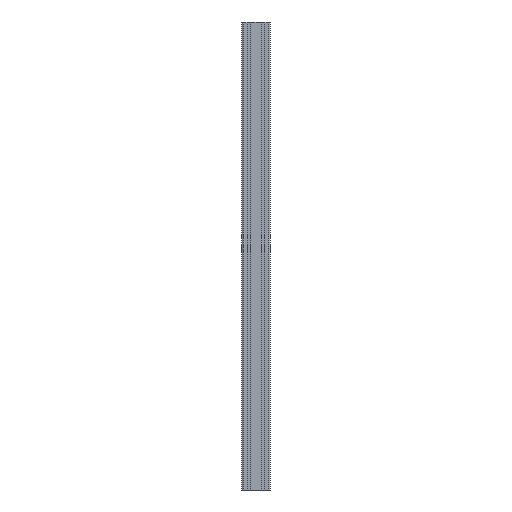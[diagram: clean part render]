
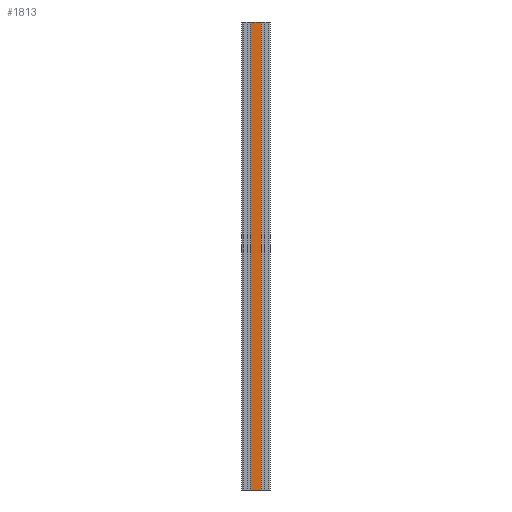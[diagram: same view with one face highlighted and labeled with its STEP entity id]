
A CAD part, left-side view. The second image highlights one B-rep face of the part: STEP entity #1813.
In plain terms, the highlighted planar face has unit normal (-1, 0, 0).
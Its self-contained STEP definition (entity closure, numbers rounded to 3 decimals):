
#138 = EDGE_LOOP ( 'NONE', ( #628, #4223, #1198, #282 ) ) ;
#207 = VECTOR ( 'NONE', #3419, 1000. ) ;
#240 = EDGE_CURVE ( 'NONE', #1594, #251, #1482, .T. ) ;
#251 = VERTEX_POINT ( 'NONE', #1555 ) ;
#282 = ORIENTED_EDGE ( 'NONE', *, *, #240, .T. ) ;
#348 = CARTESIAN_POINT ( 'NONE',  ( -30., 10.8, 500. ) ) ;
#396 = EDGE_CURVE ( 'NONE', #1594, #578, #2660, .T. ) ;
#428 = CARTESIAN_POINT ( 'NONE',  ( -30., -10.8, 500. ) ) ;
#547 = VECTOR ( 'NONE', #736, 1000. ) ;
#578 = VERTEX_POINT ( 'NONE', #428 ) ;
#628 = ORIENTED_EDGE ( 'NONE', *, *, #2948, .T. ) ;
#736 = DIRECTION ( 'NONE',  ( 0., 0., -1. ) ) ;
#787 = LINE ( 'NONE', #2101, #207 ) ;
#879 = LINE ( 'NONE', #1607, #3049 ) ;
#895 = DIRECTION ( 'NONE',  ( 0., 0., -1. ) ) ;
#1077 = AXIS2_PLACEMENT_3D ( 'NONE', #2934, #3242, #895 ) ;
#1198 = ORIENTED_EDGE ( 'NONE', *, *, #396, .F. ) ;
#1481 = VERTEX_POINT ( 'NONE', #2344 ) ;
#1482 = LINE ( 'NONE', #2379, #547 ) ;
#1555 = CARTESIAN_POINT ( 'NONE',  ( -30., 10.8, -500. ) ) ;
#1594 = VERTEX_POINT ( 'NONE', #3241 ) ;
#1607 = CARTESIAN_POINT ( 'NONE',  ( -30., -10.8, 500. ) ) ;
#1672 = DIRECTION ( 'NONE',  ( 0., -1., 0. ) ) ;
#1813 = ADVANCED_FACE ( 'NONE', ( #4150 ), #2204, .F. ) ;
#2101 = CARTESIAN_POINT ( 'NONE',  ( -30., 10.8, -500. ) ) ;
#2204 = PLANE ( 'NONE',  #1077 ) ;
#2344 = CARTESIAN_POINT ( 'NONE',  ( -30., -10.8, -500. ) ) ;
#2379 = CARTESIAN_POINT ( 'NONE',  ( -30., 10.8, 500. ) ) ;
#2555 = VECTOR ( 'NONE', #1672, 1000. ) ;
#2660 = LINE ( 'NONE', #348, #2555 ) ;
#2934 = CARTESIAN_POINT ( 'NONE',  ( -30., 10.8, 500. ) ) ;
#2948 = EDGE_CURVE ( 'NONE', #251, #1481, #787, .T. ) ;
#3049 = VECTOR ( 'NONE', #3830, 1000. ) ;
#3241 = CARTESIAN_POINT ( 'NONE',  ( -30., 10.8, 500. ) ) ;
#3242 = DIRECTION ( 'NONE',  ( 1., 0., 0. ) ) ;
#3419 = DIRECTION ( 'NONE',  ( 0., -1., 0. ) ) ;
#3830 = DIRECTION ( 'NONE',  ( 0., 0., -1. ) ) ;
#4085 = EDGE_CURVE ( 'NONE', #578, #1481, #879, .T. ) ;
#4150 = FACE_OUTER_BOUND ( 'NONE', #138, .T. ) ;
#4223 = ORIENTED_EDGE ( 'NONE', *, *, #4085, .F. ) ;
